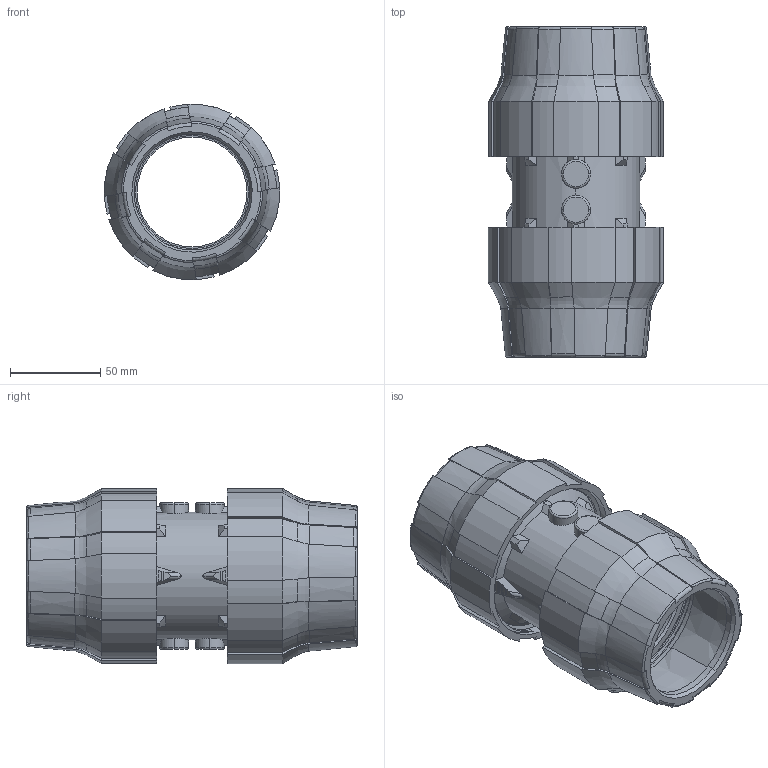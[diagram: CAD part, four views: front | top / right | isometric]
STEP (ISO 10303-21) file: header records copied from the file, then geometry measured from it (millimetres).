
FILE_DESCRIPTION (( 'STEP AP203' ), '1' );
FILE_NAME ('QLMAAL063.STEP', '2014-05-14T13:30:37', ( '' ), ( '' ), 'SwSTEP 2.0', 'SolidWorks 2013', '' );
FILE_SCHEMA (( 'CONFIG_CONTROL_DESIGN' ));
Length unit declared in the file: millimetre
Products named in the file (3): CCORMA063AL; CGHQUICK063AL; QLMAAL063
Assembly tree (3 placements, depth 2):
  QLMAAL063
    CCORMA063AL
    CGHQUICK063AL  x2
Bounding box: 97.25 x 183.31 x 97.25 mm (x, y, z)
Volume: 284170.1 mm3; surface area: 153216.1 mm2
Topology: 3 solids, 3 shells, 668 faces, 1847 edges, 1194 vertices
Faces by surface type: plane 233, bspline 152, cylinder 151, cone 76, torus 56
Entity records: 23678 total; most frequent: CARTESIAN_POINT 11856, ORIENTED_EDGE 2814, DIRECTION 1887, EDGE_CURVE 1407, VERTEX_POINT 914, AXIS2_PLACEMENT_3D 693, EDGE_LOOP 515, ADVANCED_FACE 503
